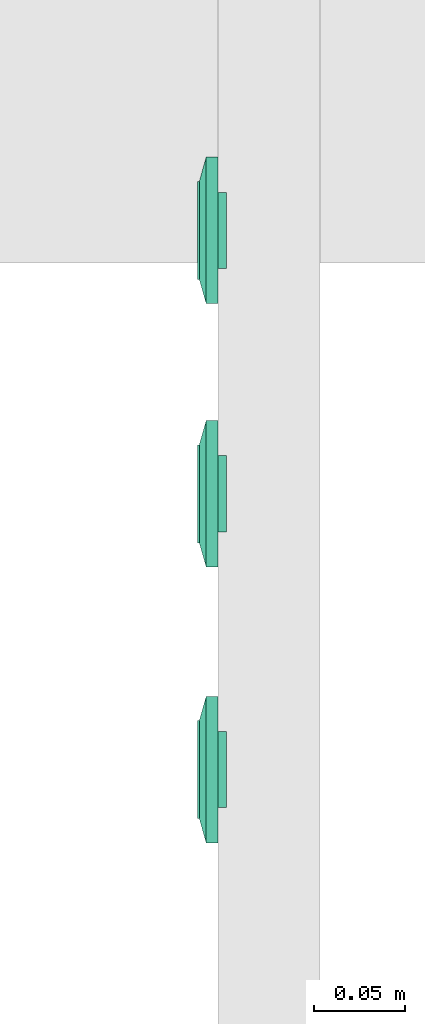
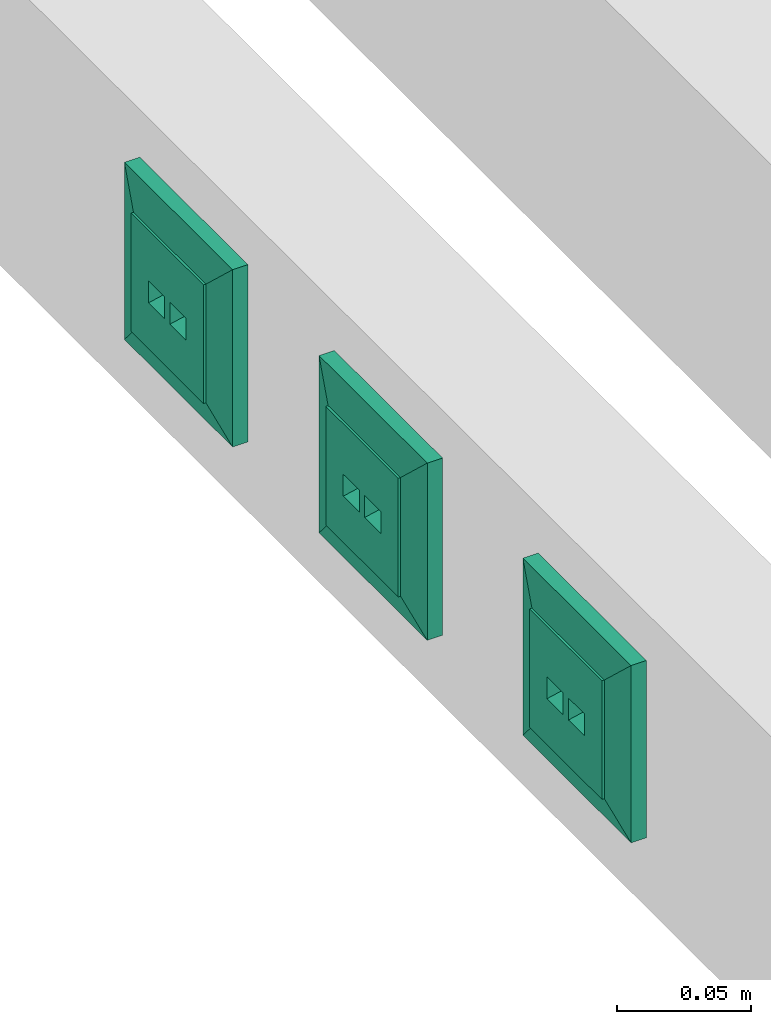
# One storey, part 46 of 166: 3 flow terminals.
"""IFC2X3 building model written with IfcOpenShell, lengths in metres."""

from ifc_helpers import new_model, entity, si_unit, converted_unit, derived_unit, direction, frame, origin, place, context, subcontext, project, spatial, faceted_brep, source, transform, mapped, type_object, type_shapes, element, save


model = new_model("IFC2X3")

# Units and contexts
model_context = context("Model", 3, precision=1e-05, world=origin(), true_north=direction((6.12303176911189e-17, 1.0)))
body_context = subcontext(model_context, "Body", "Model", "MODEL_VIEW")
ifc_project = project(units=[si_unit("LENGTHUNIT", "METRE"), si_unit("AREAUNIT", "SQUARE_METRE"), si_unit("VOLUMEUNIT", "CUBIC_METRE"), converted_unit("PLANEANGLEUNIT", "DEGREE", entity("IfcRatioMeasure", 0.0174532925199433), si_unit("PLANEANGLEUNIT", "RADIAN"), dimensions=[0, 0, 0, 0, 0, 0, 0]), si_unit("MASSUNIT", "GRAM", prefix="KILO"), derived_unit("MASSDENSITYUNIT", [(si_unit("MASSUNIT", "GRAM", prefix="KILO"), 1), (si_unit("LENGTHUNIT", "METRE"), -3)]), si_unit("TIMEUNIT", "SECOND"), si_unit("FREQUENCYUNIT", "HERTZ"), si_unit("THERMODYNAMICTEMPERATUREUNIT", "DEGREE_CELSIUS"), derived_unit("THERMALTRANSMITTANCEUNIT", [(si_unit("MASSUNIT", "GRAM", prefix="KILO"), 1), (si_unit("THERMODYNAMICTEMPERATUREUNIT", "KELVIN"), -1), (si_unit("TIMEUNIT", "SECOND"), -3)]), derived_unit("VOLUMETRICFLOWRATEUNIT", [(si_unit("LENGTHUNIT", "METRE"), 3), (si_unit("TIMEUNIT", "SECOND"), -1)]), si_unit("ELECTRICCURRENTUNIT", "AMPERE"), si_unit("ELECTRICVOLTAGEUNIT", "VOLT"), si_unit("POWERUNIT", "WATT"), si_unit("FORCEUNIT", "NEWTON"), si_unit("ILLUMINANCEUNIT", "LUX"), si_unit("LUMINOUSFLUXUNIT", "LUMEN"), si_unit("LUMINOUSINTENSITYUNIT", "CANDELA"), derived_unit("USERDEFINED", [(si_unit("MASSUNIT", "GRAM", prefix="KILO"), -1), (si_unit("LENGTHUNIT", "METRE"), -2), (si_unit("TIMEUNIT", "SECOND"), 3), (si_unit("LUMINOUSFLUXUNIT", "LUMEN"), 1)]), derived_unit("LINEARVELOCITYUNIT", [(si_unit("LENGTHUNIT", "METRE"), 1), (si_unit("TIMEUNIT", "SECOND"), -1)]), si_unit("PRESSUREUNIT", "PASCAL"), derived_unit("USERDEFINED", [(si_unit("LENGTHUNIT", "METRE"), -2), (si_unit("MASSUNIT", "GRAM", prefix="KILO"), 1), (si_unit("TIMEUNIT", "SECOND"), -2)])], contexts=[model_context])

# Site, building, storey
site_placement = place(None, origin())
site = spatial("IfcSite", under=ifc_project, at=site_placement, Name="Default", CompositionType="ELEMENT")
building_placement = place(site_placement, origin())
building = spatial("IfcBuilding", under=site, at=building_placement, CompositionType="ELEMENT")
storey_placement = place(building_placement, frame((0.0, 0.0, 4.27)))
storey = spatial("IfcBuildingStorey", under=building, at=storey_placement, Name="01", CompositionType="ELEMENT", Elevation=4.27)

# Flow terminals
electric_appliance_type = type_object("IfcElectricApplianceType", Name="RJ45 IP20", PredefinedType="NOTDEFINED")
shared_shape = source(origin(), body_context, "Body", "Brep", [
    faceted_brep([(0.00200000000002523, 0.0, 0.00799999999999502), (0.00400000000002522, 0.0, 0.00799999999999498), (0.00500000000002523, 0.00199999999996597, 0.00799999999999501), (0.0110000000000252, 0.00199999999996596, 0.00799999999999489), (0.0120000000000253, 0.0, 0.00799999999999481), (0.0140000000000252, 0.0, 0.00799999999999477), (0.0140000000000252, 0.00399999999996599, 0.00799999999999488), (0.00200000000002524, 0.00399999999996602, 0.00799999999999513), (0.00200000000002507, 0.0, 0.0), (0.00200000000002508, 0.00399999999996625, 0.0), (0.0140000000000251, 0.00399999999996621, 0.0), (0.0140000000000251, 0.0, 0.0), (0.0120000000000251, 0.0, 0.0), (0.0110000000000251, 0.00199999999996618, 0.0), (0.00500000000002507, 0.0019999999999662, 0.0), (0.00400000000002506, 0.0, 0.0)], [[[0, 1, 2, 3, 4, 5, 6, 7]], [[8, 9, 10, 11, 12, 13, 14, 15]], [[1, 0, 8, 15]], [[2, 1, 15, 14]], [[3, 2, 14, 13]], [[4, 3, 13, 12]], [[5, 4, 12, 11]], [[6, 5, 11, 10]], [[7, 6, 10, 9]], [[0, 7, 9, 8]]]),
    faceted_brep([(-0.0139999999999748, 0.0, 0.00799999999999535), (-0.0119999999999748, 0.0, 0.00799999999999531), (-0.0109999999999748, 0.00199999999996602, 0.00799999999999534), (-0.00499999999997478, 0.00199999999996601, 0.00799999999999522), (-0.0039999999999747, 0.0, 0.00799999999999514), (-0.00199999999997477, 0.0, 0.0079999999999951), (-0.00199999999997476, 0.00399999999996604, 0.00799999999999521), (-0.0139999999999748, 0.00399999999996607, 0.00799999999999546), (-0.0139999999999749, 0.0, 0.0), (-0.0139999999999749, 0.00399999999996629, 0.0), (-0.00199999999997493, 0.00399999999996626, 0.0), (-0.00199999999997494, 0.0, 0.0), (-0.00399999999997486, 0.0, 0.0), (-0.00499999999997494, 0.00199999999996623, 0.0), (-0.0109999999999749, 0.00199999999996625, 0.0), (-0.0119999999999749, 0.0, 0.0)], [[[0, 1, 2, 3, 4, 5, 6, 7]], [[8, 9, 10, 11, 12, 13, 14, 15]], [[1, 0, 8, 15]], [[2, 1, 15, 14]], [[3, 2, 14, 13]], [[4, 3, 13, 12]], [[5, 4, 12, 11]], [[6, 5, 11, 10]], [[7, 6, 10, 9]], [[0, 7, 9, 8]]]),
    faceted_brep([(0.0140000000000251, 0.00399999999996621, 0.0), (0.00200000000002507, 0.00399999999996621, 0.0), (0.00200000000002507, -0.00350000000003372, 0.0), (0.0140000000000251, -0.00350000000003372, 0.0), (0.0140000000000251, 0.00399999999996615, 0.00199999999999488), (0.00200000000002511, 0.00399999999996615, 0.00199999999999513), (0.00200000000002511, -0.00393859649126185, 0.00199999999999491), (0.0140000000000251, -0.00393859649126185, 0.00199999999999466), (0.0210000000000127, 0.0209999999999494, 0.00199999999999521), (-0.0209999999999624, 0.0209999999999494, 0.00199999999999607), (-0.0209999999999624, -0.0210000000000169, 0.00199999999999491), (0.0210000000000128, -0.0210000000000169, 0.00199999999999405), (-0.0139999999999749, 0.0039999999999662, 0.00199999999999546), (-0.0019999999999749, 0.0039999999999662, 0.00199999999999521), (-0.00199999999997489, -0.0039385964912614, 0.00199999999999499), (-0.0139999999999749, -0.00393859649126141, 0.00199999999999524), (0.0210000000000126, 0.0209999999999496, -0.00460000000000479), (0.0210000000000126, -0.0210000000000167, -0.00460000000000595), (-0.0209999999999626, -0.0210000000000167, -0.00460000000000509), (-0.0209999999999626, 0.0209999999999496, -0.00460000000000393), (-0.00199999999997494, 0.00399999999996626, 0.0), (-0.0139999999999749, 0.00399999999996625, 0.0), (-0.0139999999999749, -0.00350000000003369, 0.0), (-0.00199999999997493, -0.00350000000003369, 0.0)], [[[0, 1, 2, 3]], [[1, 0, 4, 5]], [[2, 1, 5, 6]], [[3, 2, 6, 7]], [[0, 3, 7, 4]], [[5, 4, 7, 6], [8, 9, 10, 11], [12, 13, 14, 15]], [[16, 17, 18, 19]], [[9, 8, 16, 19]], [[10, 9, 19, 18]], [[11, 10, 18, 17]], [[8, 11, 17, 16]], [[20, 21, 22, 23]], [[21, 20, 13, 12]], [[22, 21, 12, 15]], [[23, 22, 15, 14]], [[20, 23, 14, 13]]], outer=[[True], [True], [True], [True], [True], [False, True, False], [True], [True], [True], [True], [True], [True], [True], [True], [True], [True]]),
    faceted_brep([(0.0270000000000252, 0.026999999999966, 0.0113999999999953), (-0.0269999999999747, 0.026999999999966, 0.0113999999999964), (-0.0269999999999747, -0.0270000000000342, 0.0113999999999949), (0.0270000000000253, -0.0270000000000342, 0.0113999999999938), (0.0020000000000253, 0.00399999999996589, 0.0113999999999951), (0.0140000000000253, 0.00399999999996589, 0.0113999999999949), (0.0140000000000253, -0.00600000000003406, 0.0113999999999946), (0.0020000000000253, -0.00600000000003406, 0.0113999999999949), (-0.0139999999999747, 0.00399999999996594, 0.0113999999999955), (-0.00199999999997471, 0.00399999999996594, 0.0113999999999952), (-0.00199999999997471, -0.0060000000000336, 0.0113999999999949), (-0.0139999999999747, -0.00600000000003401, 0.0113999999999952), (0.0270000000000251, 0.0269999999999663, 0.00199999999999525), (0.0270000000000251, -0.0270000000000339, 0.00199999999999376), (-0.0269999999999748, -0.0270000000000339, 0.00199999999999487), (-0.0269999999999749, 0.0269999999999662, 0.00199999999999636), (0.0140000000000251, 0.00399999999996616, 0.00199999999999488), (0.00200000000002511, 0.00399999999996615, 0.00199999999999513), (0.00200000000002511, -0.00393859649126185, 0.00199999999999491), (0.0140000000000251, -0.00393859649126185, 0.00199999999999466), (-0.00199999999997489, 0.0039999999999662, 0.00199999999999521), (-0.0139999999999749, 0.0039999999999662, 0.00199999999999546), (-0.0139999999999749, -0.0039385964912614, 0.00199999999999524), (-0.00199999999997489, -0.0039385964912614, 0.00199999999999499)], [[[0, 1, 2, 3], [4, 5, 6, 7], [8, 9, 10, 11]], [[12, 13, 14, 15], [16, 17, 18, 19], [20, 21, 22, 23]], [[1, 0, 12, 15]], [[2, 1, 15, 14]], [[3, 2, 14, 13]], [[0, 3, 13, 12]], [[4, 17, 16, 5]], [[17, 4, 7, 18]], [[18, 7, 6, 19]], [[5, 16, 19, 6]], [[8, 21, 20, 9]], [[21, 8, 11, 22]], [[22, 11, 10, 23]], [[9, 20, 23, 10]]]),
    faceted_brep([(0.027000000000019, 0.0269999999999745, 0.00659999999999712), (-0.0269999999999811, 0.0269999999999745, 0.00659999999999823), (-0.026999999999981, -0.0270000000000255, 0.00659999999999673), (0.027000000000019, -0.0270000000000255, 0.00659999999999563), (0.040350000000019, 0.0403499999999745, 0.00659999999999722), (0.040350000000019, -0.0403500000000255, 0.00659999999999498), (-0.0403499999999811, -0.0403500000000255, 0.00659999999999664), (-0.0403499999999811, 0.0403499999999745, 0.00659999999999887), (-0.026999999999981, 0.0269999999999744, 0.0103999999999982), (0.027000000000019, 0.0269999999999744, 0.0103999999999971), (-0.026999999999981, -0.0270000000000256, 0.0103999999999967), (0.027000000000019, -0.0270000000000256, 0.0103999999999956)], [[[0, 1, 2, 3], [4, 5, 6, 7]], [[4, 7, 8, 9]], [[7, 6, 10, 8]], [[6, 5, 11, 10]], [[5, 4, 9, 11]], [[0, 9, 8, 1]], [[1, 8, 10, 2]], [[2, 10, 11, 3]], [[9, 0, 3, 11]]], outer=[[False, True], [True], [True], [True], [True], [True], [True], [True], [True]]),
    faceted_brep([(0.040350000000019, 0.0403499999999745, 0.00659999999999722), (-0.0403499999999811, 0.0403499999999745, 0.00659999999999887), (-0.0403499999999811, -0.0403500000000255, 0.00659999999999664), (0.040350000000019, -0.0403500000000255, 0.00659999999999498), (-0.0269999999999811, 0.0269999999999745, 0.00659999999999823), (0.0270000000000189, 0.0269999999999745, 0.00659999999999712), (0.0270000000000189, -0.0270000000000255, 0.00659999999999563), (-0.0269999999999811, -0.0270000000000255, 0.00659999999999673), (0.0403500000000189, 0.0403499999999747, 0.0), (0.0403500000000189, -0.0403500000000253, 0.0), (-0.0403499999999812, -0.0403500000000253, 0.0), (-0.0403499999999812, 0.0403499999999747, 0.0), (0.0270000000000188, 0.0269999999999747, 0.0), (-0.0269999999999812, 0.0269999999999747, 0.0), (-0.0269999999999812, -0.0270000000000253, 0.0), (0.0270000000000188, -0.0270000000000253, 0.0)], [[[0, 1, 2, 3], [4, 5, 6, 7]], [[8, 9, 10, 11], [12, 13, 14, 15]], [[1, 0, 8, 11]], [[2, 1, 11, 10]], [[3, 2, 10, 9]], [[0, 3, 9, 8]], [[12, 5, 4, 13]], [[13, 4, 7, 14]], [[14, 7, 6, 15]], [[5, 12, 15, 6]]]),
])
type_shapes(electric_appliance_type, [shared_shape])
for number, where, z_axis, x_axis in (
    (1, (33.3667436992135, -189.67358875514, 4.70800000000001), (-1.0, 0.0, 0.0), (0.0, -1.0, 0.0)),
    (2, (33.3667436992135, -189.528429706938, 4.70800000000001), (-1.0, 0.0, 0.0), (0.0, -1.0, 0.0)),
    (3, (33.3667436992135, -189.82558875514, 4.70800000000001), (-1.0, 0.0, 0.0), (0.0, -1.0, 0.0)),
):
    element("IfcFlowTerminal", number, at=place(building_placement, frame(where, z_axis=z_axis, x_axis=x_axis)), inside=storey, type_object=electric_appliance_type, Name="INT_Prise RJ45:RJ45 IP20", ObjectType="INT_Prise RJ45:RJ45 IP20", context=body_context, shape_type="MappedRepresentation", body=[
        mapped(shared_shape, transform((0.0, 0.0, 0.0), scale=1.0)),
    ])

save(model, "model.ifc")
